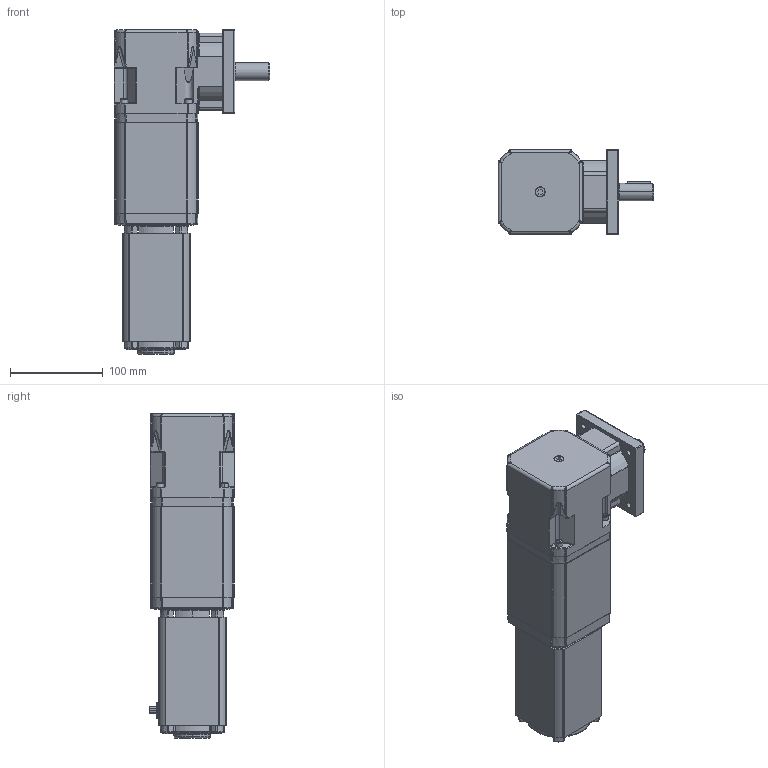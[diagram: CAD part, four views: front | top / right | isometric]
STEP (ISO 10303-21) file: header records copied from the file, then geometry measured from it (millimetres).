
FILE_DESCRIPTION (( 'STEP AP214' ), '1' );
FILE_NAME ('BL6540-RP7300_3S.STEP', '2013-08-28T18:04:21', ( '' ), ( '' ), 'SwSTEP 2.0', 'SolidWorks 2013', '' );
FILE_SCHEMA (( 'AUTOMOTIVE_DESIGN' ));
Length unit declared in the file: inch
Products named in the file (1): BL6540-RP7300_3S
Bounding box: 167.94 x 91.21 x 349.38 mm (x, y, z)
Surface area: 228637.4 mm2 (no closed solid volume)
Topology: 0 solids, 70 shells, 1254 faces, 4342 edges, 3016 vertices
Faces by surface type: cylinder 462, plane 355, cone 176, torus 138, bspline 85, sphere 38
Entity records: 69154 total; most frequent: CARTESIAN_POINT 16709, DIRECTION 7774, ORIENTED_EDGE 6748, EDGE_CURVE 4287, VERTEX_POINT 3016, AXIS2_PLACEMENT_3D 2943, LINE 1888, VECTOR 1888
